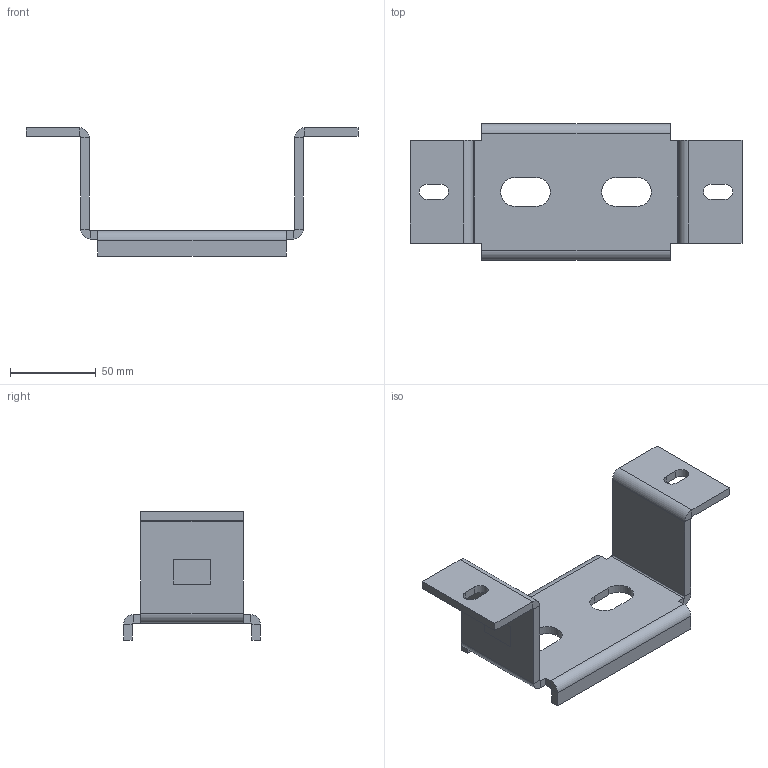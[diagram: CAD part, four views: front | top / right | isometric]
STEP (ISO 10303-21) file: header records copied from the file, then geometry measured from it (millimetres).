
FILE_DESCRIPTION(/* description */ ('Deckenkonsole Nr. 1+2, 2-fach'),/* implementation_level */ '2;1');
FILE_NAME(/* name */ 'Q:\sge-ma\Produktmanagement-STB\STB\Workspace\TraceParts\Deckenkonsole\010335812.stp',/* time_stamp */ '2018-02-20T13:28:49+01:00',/* author */ ('avschreier'),/* organization */ (''),/* preprocessor_version */ 'ST-DEVELOPER v16.1',/* originating_system */ 'Autodesk Inventor 2016',/* authorisation */ '');
FILE_SCHEMA (('CONFIG_CONTROL_DESIGN'));
Length unit declared in the file: millimetre
Products named in the file (1): 010335812
Bounding box: 194 x 80 x 75 mm (x, y, z)
Volume: 107273.2 mm3; surface area: 48183.1 mm2
Topology: 1 solids, 1 shells, 83 faces, 192 edges, 112 vertices
Faces by surface type: plane 63, cylinder 20
Entity records: 2334 total; most frequent: DIRECTION 400, CARTESIAN_POINT 388, ORIENTED_EDGE 384, EDGE_CURVE 192, LINE 152, VECTOR 152, AXIS2_PLACEMENT_3D 124, VERTEX_POINT 112
